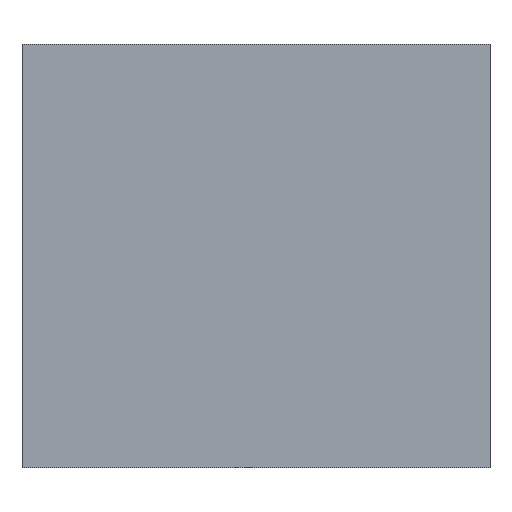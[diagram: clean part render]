
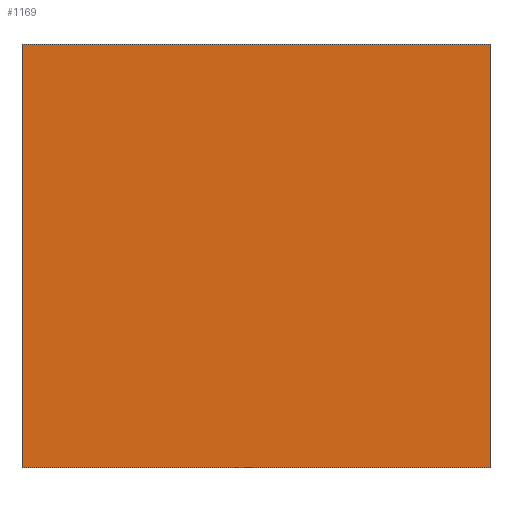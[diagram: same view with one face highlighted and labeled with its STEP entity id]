
A CAD part, front view. The second image highlights one B-rep face of the part: STEP entity #1169.
In plain terms, the highlighted planar face has unit normal (0, -1, 0).
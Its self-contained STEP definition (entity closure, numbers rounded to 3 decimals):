
#701 = VERTEX_POINT('',#702);
#702 = CARTESIAN_POINT('',(31.6,-16.5,-14.7));
#711 = PLANE('',#712);
#712 = AXIS2_PLACEMENT_3D('',#713,#714,#715);
#713 = CARTESIAN_POINT('',(31.6,-13.1,-19.));
#714 = DIRECTION('',(1.,0.,-0.));
#715 = DIRECTION('',(0.,0.,1.));
#723 = PLANE('',#724);
#724 = AXIS2_PLACEMENT_3D('',#725,#726,#727);
#725 = CARTESIAN_POINT('',(31.6,-13.1,-14.7));
#726 = DIRECTION('',(0.,0.,1.));
#727 = DIRECTION('',(1.,0.,-0.));
#735 = EDGE_CURVE('',#736,#701,#738,.T.);
#736 = VERTEX_POINT('',#737);
#737 = CARTESIAN_POINT('',(31.6,-16.5,-19.4));
#738 = SURFACE_CURVE('',#739,(#743,#750),.PCURVE_S1.);
#739 = LINE('',#740,#741);
#740 = CARTESIAN_POINT('',(31.6,-16.5,-19.4));
#741 = VECTOR('',#742,1.);
#742 = DIRECTION('',(0.,0.,1.));
#743 = PCURVE('',#711,#744);
#744 = DEFINITIONAL_REPRESENTATION('',(#745),#749);
#745 = LINE('',#746,#747);
#746 = CARTESIAN_POINT('',(-0.4,3.4));
#747 = VECTOR('',#748,1.);
#748 = DIRECTION('',(1.,0.));
#749 = ( GEOMETRIC_REPRESENTATION_CONTEXT(2) 
PARAMETRIC_REPRESENTATION_CONTEXT() REPRESENTATION_CONTEXT('2D SPACE',''
  ) );
#750 = PCURVE('',#751,#756);
#751 = PLANE('',#752);
#752 = AXIS2_PLACEMENT_3D('',#753,#754,#755);
#753 = CARTESIAN_POINT('',(31.6,-16.5,-19.4));
#754 = DIRECTION('',(-0.,1.,0.));
#755 = DIRECTION('',(0.,0.,1.));
#756 = DEFINITIONAL_REPRESENTATION('',(#757),#761);
#757 = LINE('',#758,#759);
#758 = CARTESIAN_POINT('',(0.,0.));
#759 = VECTOR('',#760,1.);
#760 = DIRECTION('',(1.,0.));
#761 = ( GEOMETRIC_REPRESENTATION_CONTEXT(2) 
PARAMETRIC_REPRESENTATION_CONTEXT() REPRESENTATION_CONTEXT('2D SPACE',''
  ) );
#779 = PLANE('',#780);
#780 = AXIS2_PLACEMENT_3D('',#781,#782,#783);
#781 = CARTESIAN_POINT('',(31.6,-16.5,-19.4));
#782 = DIRECTION('',(0.,0.,1.));
#783 = DIRECTION('',(1.,0.,-0.));
#933 = EDGE_CURVE('',#701,#934,#936,.T.);
#934 = VERTEX_POINT('',#935);
#935 = CARTESIAN_POINT('',(36.8,-16.5,-14.7));
#936 = SURFACE_CURVE('',#937,(#941,#948),.PCURVE_S1.);
#937 = LINE('',#938,#939);
#938 = CARTESIAN_POINT('',(31.6,-16.5,-14.7));
#939 = VECTOR('',#940,1.);
#940 = DIRECTION('',(1.,0.,-0.));
#941 = PCURVE('',#723,#942);
#942 = DEFINITIONAL_REPRESENTATION('',(#943),#947);
#943 = LINE('',#944,#945);
#944 = CARTESIAN_POINT('',(0.,-3.4));
#945 = VECTOR('',#946,1.);
#946 = DIRECTION('',(1.,0.));
#947 = ( GEOMETRIC_REPRESENTATION_CONTEXT(2) 
PARAMETRIC_REPRESENTATION_CONTEXT() REPRESENTATION_CONTEXT('2D SPACE',''
  ) );
#948 = PCURVE('',#751,#949);
#949 = DEFINITIONAL_REPRESENTATION('',(#950),#954);
#950 = LINE('',#951,#952);
#951 = CARTESIAN_POINT('',(4.7,0.));
#952 = VECTOR('',#953,1.);
#953 = DIRECTION('',(0.,1.));
#954 = ( GEOMETRIC_REPRESENTATION_CONTEXT(2) 
PARAMETRIC_REPRESENTATION_CONTEXT() REPRESENTATION_CONTEXT('2D SPACE',''
  ) );
#972 = PLANE('',#973);
#973 = AXIS2_PLACEMENT_3D('',#974,#975,#976);
#974 = CARTESIAN_POINT('',(36.8,-13.1,-19.));
#975 = DIRECTION('',(1.,0.,-0.));
#976 = DIRECTION('',(0.,0.,1.));
#1125 = EDGE_CURVE('',#736,#1126,#1128,.T.);
#1126 = VERTEX_POINT('',#1127);
#1127 = CARTESIAN_POINT('',(36.8,-16.5,-19.4));
#1128 = SURFACE_CURVE('',#1129,(#1133,#1140),.PCURVE_S1.);
#1129 = LINE('',#1130,#1131);
#1130 = CARTESIAN_POINT('',(31.6,-16.5,-19.4));
#1131 = VECTOR('',#1132,1.);
#1132 = DIRECTION('',(1.,0.,-0.));
#1133 = PCURVE('',#779,#1134);
#1134 = DEFINITIONAL_REPRESENTATION('',(#1135),#1139);
#1135 = LINE('',#1136,#1137);
#1136 = CARTESIAN_POINT('',(0.,0.));
#1137 = VECTOR('',#1138,1.);
#1138 = DIRECTION('',(1.,0.));
#1139 = ( GEOMETRIC_REPRESENTATION_CONTEXT(2) 
PARAMETRIC_REPRESENTATION_CONTEXT() REPRESENTATION_CONTEXT('2D SPACE',''
  ) );
#1140 = PCURVE('',#751,#1141);
#1141 = DEFINITIONAL_REPRESENTATION('',(#1142),#1146);
#1142 = LINE('',#1143,#1144);
#1143 = CARTESIAN_POINT('',(0.,0.));
#1144 = VECTOR('',#1145,1.);
#1145 = DIRECTION('',(0.,1.));
#1146 = ( GEOMETRIC_REPRESENTATION_CONTEXT(2) 
PARAMETRIC_REPRESENTATION_CONTEXT() REPRESENTATION_CONTEXT('2D SPACE',''
  ) );
#1169 = ADVANCED_FACE('',(#1170),#751,.F.);
#1170 = FACE_BOUND('',#1171,.F.);
#1171 = EDGE_LOOP('',(#1172,#1173,#1174,#1175));
#1172 = ORIENTED_EDGE('',*,*,#1125,.F.);
#1173 = ORIENTED_EDGE('',*,*,#735,.T.);
#1174 = ORIENTED_EDGE('',*,*,#933,.T.);
#1175 = ORIENTED_EDGE('',*,*,#1176,.F.);
#1176 = EDGE_CURVE('',#1126,#934,#1177,.T.);
#1177 = SURFACE_CURVE('',#1178,(#1182,#1189),.PCURVE_S1.);
#1178 = LINE('',#1179,#1180);
#1179 = CARTESIAN_POINT('',(36.8,-16.5,-19.4));
#1180 = VECTOR('',#1181,1.);
#1181 = DIRECTION('',(0.,0.,1.));
#1182 = PCURVE('',#751,#1183);
#1183 = DEFINITIONAL_REPRESENTATION('',(#1184),#1188);
#1184 = LINE('',#1185,#1186);
#1185 = CARTESIAN_POINT('',(0.,5.2));
#1186 = VECTOR('',#1187,1.);
#1187 = DIRECTION('',(1.,0.));
#1188 = ( GEOMETRIC_REPRESENTATION_CONTEXT(2) 
PARAMETRIC_REPRESENTATION_CONTEXT() REPRESENTATION_CONTEXT('2D SPACE',''
  ) );
#1189 = PCURVE('',#972,#1190);
#1190 = DEFINITIONAL_REPRESENTATION('',(#1191),#1195);
#1191 = LINE('',#1192,#1193);
#1192 = CARTESIAN_POINT('',(-0.4,3.4));
#1193 = VECTOR('',#1194,1.);
#1194 = DIRECTION('',(1.,0.));
#1195 = ( GEOMETRIC_REPRESENTATION_CONTEXT(2) 
PARAMETRIC_REPRESENTATION_CONTEXT() REPRESENTATION_CONTEXT('2D SPACE',''
  ) );
